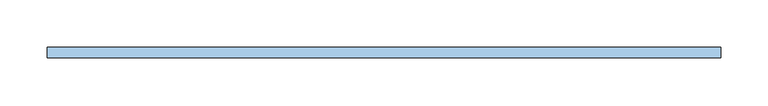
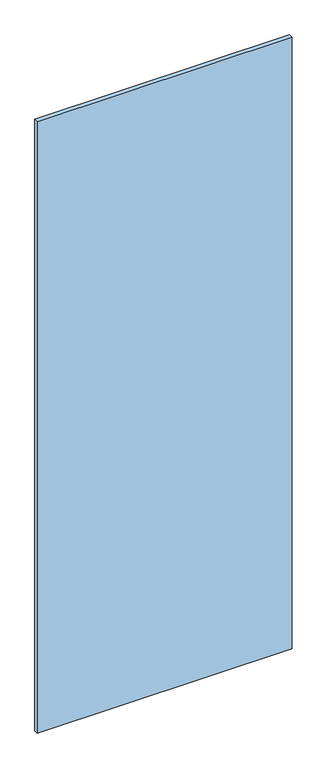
"""IFC4 building model written with IfcOpenShell, lengths in millimetres: window geometry, Baño 1 Hueco lateral : CA-6b-cancel baño-1.455 2 2."""

from ifc_helpers import new_model, si_unit, origin, origin_with_axes, place, context, project, spatial, polyline, outline, extrude, source, transform, mapped, element, save


def window_ec240def(model_context):
    return source(origin(), model_context, "Body", "SweptSolid", [
        extrude(outline(polyline([(-655.0, 5.5), (55.0, 5.5), (55.0, -5.5), (-655.0, -5.5), (-655.0, 5.5)])), origin_with_axes(), (0.0, 0.0, 1.0), 1800.0),
    ])


if __name__ == "__main__":
    model = new_model("IFC4")
    model_context = context("Model", 3, world=origin())
    ifc_project = project(units=[si_unit("LENGTHUNIT", "METRE", prefix="MILLI")], contexts=[model_context])
    site = spatial("IfcSite", under=ifc_project)
    building = spatial("IfcBuilding", under=site)
    placement = place(None, origin())
    window_shape = window_ec240def(model_context)
    element("IfcWindow", 1, ObjectType="Baño 1 Hueco lateral : CA-6b-cancel baño-1.455 2 2", at=placement, inside=building, context=model_context, shape_type="MappedRepresentation", body=[
        mapped(window_shape, transform((0.0, 0.0, 0.0), x_axis=(1.0, 0.0, 0.0), y_axis=(0.0, 1.0, 0.0), z_axis=(0.0, 0.0, 1.0))),
    ])
    save(model, "model.ifc")
